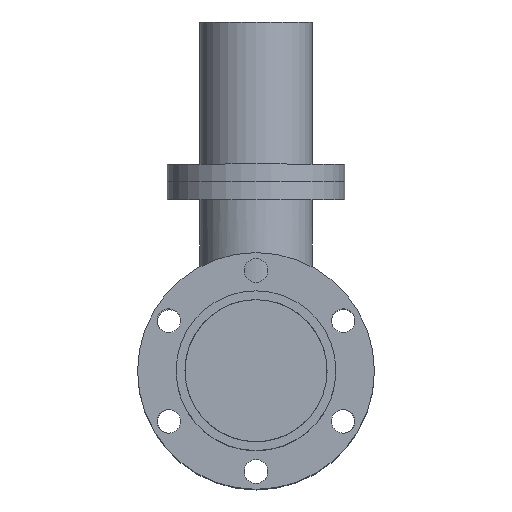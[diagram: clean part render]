
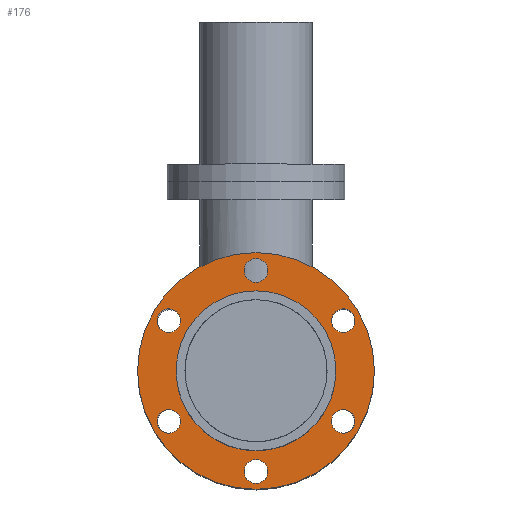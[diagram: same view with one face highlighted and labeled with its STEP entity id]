
A CAD part, top view. The second image highlights one B-rep face of the part: STEP entity #176.
In plain terms, the highlighted planar face has unit normal (0, 0, 1).
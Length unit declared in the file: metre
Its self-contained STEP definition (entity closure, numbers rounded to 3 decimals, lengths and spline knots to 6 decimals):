
#176 = ADVANCED_FACE( '', ( #395, #396, #397, #398, #399, #400, #401, #402 ), #403, .F. );
#395 = FACE_OUTER_BOUND( '', #676, .T. );
#396 = FACE_BOUND( '', #677, .T. );
#397 = FACE_BOUND( '', #678, .T. );
#398 = FACE_BOUND( '', #679, .T. );
#399 = FACE_BOUND( '', #680, .T. );
#400 = FACE_BOUND( '', #681, .T. );
#401 = FACE_BOUND( '', #682, .T. );
#402 = FACE_BOUND( '', #683, .T. );
#403 = PLANE( '', #684 );
#676 = EDGE_LOOP( '', ( #1049 ) );
#677 = EDGE_LOOP( '', ( #1050 ) );
#678 = EDGE_LOOP( '', ( #1051 ) );
#679 = EDGE_LOOP( '', ( #1052 ) );
#680 = EDGE_LOOP( '', ( #1053 ) );
#681 = EDGE_LOOP( '', ( #1054 ) );
#682 = EDGE_LOOP( '', ( #1055 ) );
#683 = EDGE_LOOP( '', ( #1056 ) );
#684 = AXIS2_PLACEMENT_3D( '', #1057, #1058, #1059 );
#1049 = ORIENTED_EDGE( '', *, *, #1260, .F. );
#1050 = ORIENTED_EDGE( '', *, *, #1261, .T. );
#1051 = ORIENTED_EDGE( '', *, *, #1262, .T. );
#1052 = ORIENTED_EDGE( '', *, *, #1263, .T. );
#1053 = ORIENTED_EDGE( '', *, *, #1264, .T. );
#1054 = ORIENTED_EDGE( '', *, *, #1265, .T. );
#1055 = ORIENTED_EDGE( '', *, *, #1266, .T. );
#1056 = ORIENTED_EDGE( '', *, *, #1267, .T. );
#1057 = CARTESIAN_POINT( '', ( 0.085725, 0., 0.2032 ) );
#1058 = DIRECTION( '', ( 0., 0., -1. ) );
#1059 = DIRECTION( '', ( 1., 0., 0. ) );
#1260 = EDGE_CURVE( '', #1443, #1443, #1444, .T. );
#1261 = EDGE_CURVE( '', #1445, #1445, #1446, .T. );
#1262 = EDGE_CURVE( '', #1447, #1447, #1448, .T. );
#1263 = EDGE_CURVE( '', #1449, #1449, #1450, .T. );
#1264 = EDGE_CURVE( '', #1451, #1451, #1452, .T. );
#1265 = EDGE_CURVE( '', #1453, #1453, #1454, .T. );
#1266 = EDGE_CURVE( '', #1455, #1455, #1456, .T. );
#1267 = EDGE_CURVE( '', #1457, #1457, #1458, .T. );
#1443 = VERTEX_POINT( '', #1801 );
#1444 = CIRCLE( '', #1802, 0.127 );
#1445 = VERTEX_POINT( '', #1803 );
#1446 = CIRCLE( '', #1804, 0.0127 );
#1447 = VERTEX_POINT( '', #1805 );
#1448 = CIRCLE( '', #1806, 0.0127 );
#1449 = VERTEX_POINT( '', #1807 );
#1450 = CIRCLE( '', #1808, 0.0127 );
#1451 = VERTEX_POINT( '', #1809 );
#1452 = CIRCLE( '', #1810, 0.0127 );
#1453 = VERTEX_POINT( '', #1811 );
#1454 = CIRCLE( '', #1812, 0.0127 );
#1455 = VERTEX_POINT( '', #1813 );
#1456 = CIRCLE( '', #1814, 0.0127 );
#1457 = VERTEX_POINT( '', #1815 );
#1458 = CIRCLE( '', #1816, 0.085725 );
#1801 = CARTESIAN_POINT( '', ( 0., 0.127, 0.2032 ) );
#1802 = AXIS2_PLACEMENT_3D( '', #2283, #2284, #2285 );
#1803 = CARTESIAN_POINT( '', ( 0.093487, -0.041275, 0.2032 ) );
#1804 = AXIS2_PLACEMENT_3D( '', #2286, #2287, #2288 );
#1805 = CARTESIAN_POINT( '', ( 0., -0.09525, 0.2032 ) );
#1806 = AXIS2_PLACEMENT_3D( '', #2289, #2290, #2291 );
#1807 = CARTESIAN_POINT( '', ( 0.093487, 0.066675, 0.2032 ) );
#1808 = AXIS2_PLACEMENT_3D( '', #2292, #2293, #2294 );
#1809 = CARTESIAN_POINT( '', ( -0.093487, -0.041275, 0.2032 ) );
#1810 = AXIS2_PLACEMENT_3D( '', #2295, #2296, #2297 );
#1811 = CARTESIAN_POINT( '', ( 0., 0.12065, 0.2032 ) );
#1812 = AXIS2_PLACEMENT_3D( '', #2298, #2299, #2300 );
#1813 = CARTESIAN_POINT( '', ( -0.093487, 0.066675, 0.2032 ) );
#1814 = AXIS2_PLACEMENT_3D( '', #2301, #2302, #2303 );
#1815 = CARTESIAN_POINT( '', ( 0., 0.085725, 0.2032 ) );
#1816 = AXIS2_PLACEMENT_3D( '', #2304, #2305, #2306 );
#2283 = CARTESIAN_POINT( '', ( 0., 0., 0.2032 ) );
#2284 = DIRECTION( '', ( 0., 0., -1. ) );
#2285 = DIRECTION( '', ( 0., 1., 0. ) );
#2286 = CARTESIAN_POINT( '', ( 0.093487, -0.053975, 0.2032 ) );
#2287 = DIRECTION( '', ( 0., 0., -1. ) );
#2288 = DIRECTION( '', ( 0., 1., 0. ) );
#2289 = CARTESIAN_POINT( '', ( 0., -0.10795, 0.2032 ) );
#2290 = DIRECTION( '', ( 0., 0., -1. ) );
#2291 = DIRECTION( '', ( 0., 1., 0. ) );
#2292 = CARTESIAN_POINT( '', ( 0.093487, 0.053975, 0.2032 ) );
#2293 = DIRECTION( '', ( 0., 0., -1. ) );
#2294 = DIRECTION( '', ( 0., 1., 0. ) );
#2295 = CARTESIAN_POINT( '', ( -0.093487, -0.053975, 0.2032 ) );
#2296 = DIRECTION( '', ( 0., 0., -1. ) );
#2297 = DIRECTION( '', ( 0., 1., 0. ) );
#2298 = CARTESIAN_POINT( '', ( 0., 0.10795, 0.2032 ) );
#2299 = DIRECTION( '', ( 0., 0., -1. ) );
#2300 = DIRECTION( '', ( 0., 1., 0. ) );
#2301 = CARTESIAN_POINT( '', ( -0.093487, 0.053975, 0.2032 ) );
#2302 = DIRECTION( '', ( 0., 0., -1. ) );
#2303 = DIRECTION( '', ( 0., 1., 0. ) );
#2304 = CARTESIAN_POINT( '', ( 0., 0., 0.2032 ) );
#2305 = DIRECTION( '', ( 0., 0., -1. ) );
#2306 = DIRECTION( '', ( 0., 1., 0. ) );
